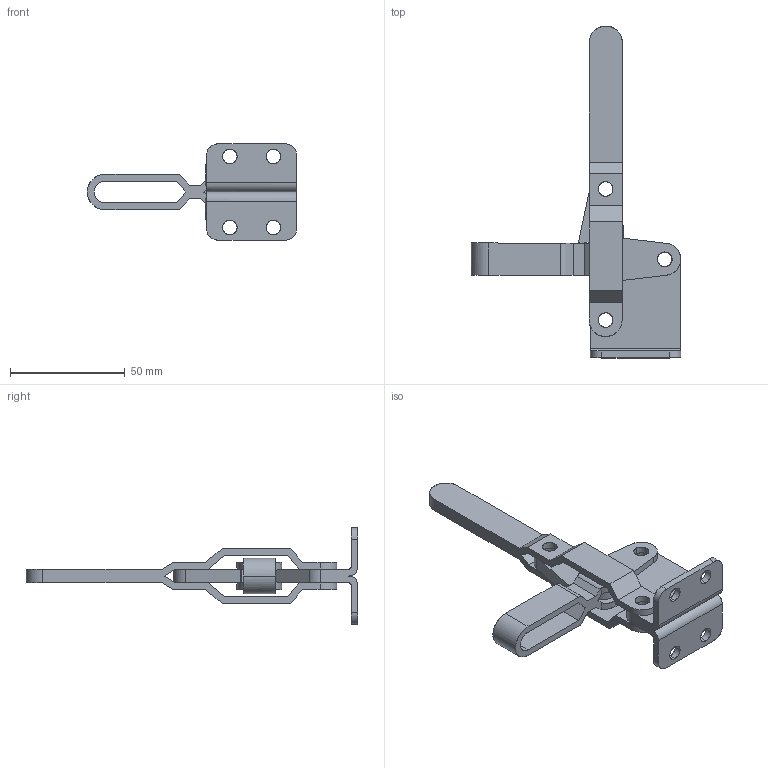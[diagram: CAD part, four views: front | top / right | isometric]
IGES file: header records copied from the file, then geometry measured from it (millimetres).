
Start section: Comment
Global section: file name: 101d.igs; native system:  By Spatial Corp.; preprocessor: XPlus PS/IGES 3.0; author: Author; organization: Title; date: 20050216.163300; units: inch
Bounding box: 91.41 x 144.8 x 42 mm (x, y, z)
Surface area: 23975.8 mm2 (no closed solid volume)
Topology: 0 solids, 0 shells, 135 faces, 762 edges, 762 vertices
Faces by surface type: extrusion 69, revolution 66
